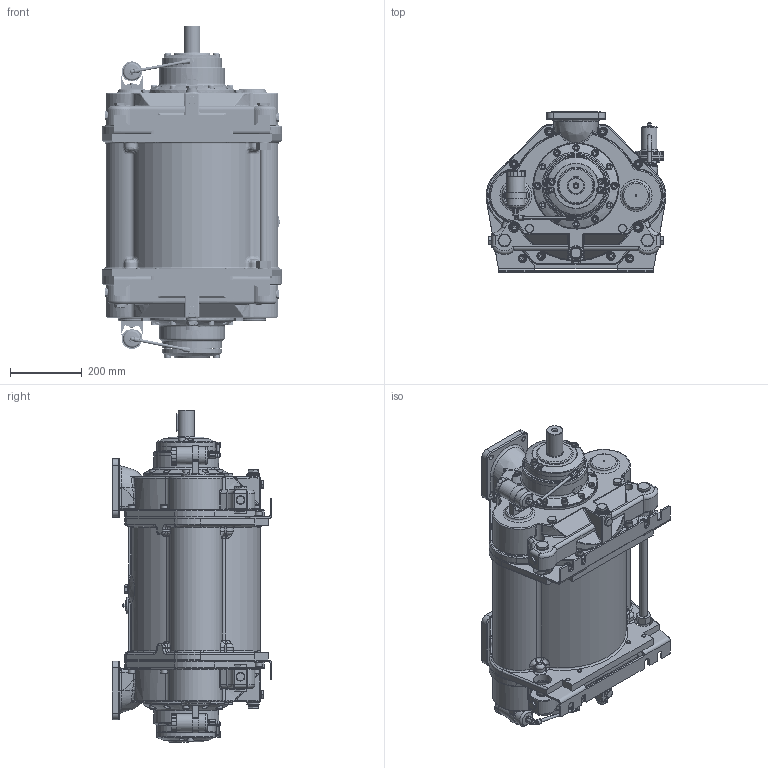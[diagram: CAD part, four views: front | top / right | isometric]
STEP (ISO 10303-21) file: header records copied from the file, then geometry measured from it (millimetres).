
FILE_DESCRIPTION(/* description */ (''),/* implementation_level */ '2;1');
FILE_NAME(/* name */ '1700036C.stp',/* time_stamp */ '2025-09-23T15:03:21+02:00',/* author */ ('JJ'),/* organization */ (''),/* preprocessor_version */ 'ST-DEVELOPER v20',/* originating_system */ 'Autodesk Inventor 2025',/* authorisation */ '');
FILE_SCHEMA (('AUTOMOTIVE_DESIGN { 1 0 10303 214 3 1 1 }'));
Length unit declared in the file: millimetre
Products named in the file (1): 1700036
Bounding box: 502.48 x 447.09 x 928 mm (x, y, z)
Volume: 86853100.3 mm3; surface area: 2122693.3 mm2
Topology: 7 solids, 7 shells, 3801 faces, 9570 edges, 6079 vertices
Faces by surface type: plane 1563, cylinder 1025, bspline 591, cone 310, torus 280, sphere 32
Full cylindrical faces by diameter (mm): 1.5 x16, 3.3 x4, 3.5 x2, 4 x2, 4.134 x4, 5 x2, 5.3 x2, 6 x3, 8 x11, 8.5 x2, 9.2 x2, 9.7 x1, 9.8 x4, 10 x8, 10.106 x16, 10.11 x1, 12 x29, 13 x4, 13.5 x6, 13.835 x8, 14.5 x1, 14.95 x1, 15 x4, 16.66 x1, 16.662 x1, 17.28 x1, 17.5 x12, 18 x41, 19.5 x12, 20 x8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
Entity records: 131198 total; most frequent: CARTESIAN_POINT 40367, ORIENTED_EDGE 18998, DIRECTION 16946, EDGE_CURVE 9499, AXIS2_PLACEMENT_3D 6353, VERTEX_POINT 6079, EDGE_LOOP 4276, LINE 4240
